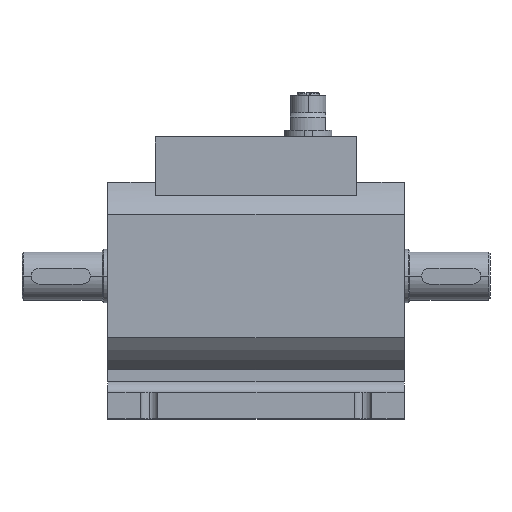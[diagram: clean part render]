
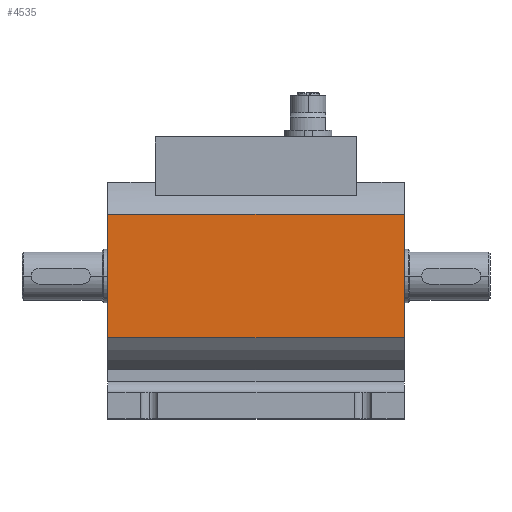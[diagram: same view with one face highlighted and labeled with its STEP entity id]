
A CAD part, top view. The second image highlights one B-rep face of the part: STEP entity #4535.
In plain terms, the highlighted planar face has unit normal (0, 0, 1).
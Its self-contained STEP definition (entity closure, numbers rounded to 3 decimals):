
#1773 = VECTOR ( 'NONE', #22611, 1000. ) ;
#2481 = DIRECTION ( 'NONE',  ( 0., -1., 0. ) ) ;
#4419 = CARTESIAN_POINT ( 'NONE',  ( 55.5, 23.126, 35. ) ) ;
#4535 = ADVANCED_FACE ( 'NONE', ( #26437 ), #11531, .F. ) ;
#5405 = VECTOR ( 'NONE', #2481, 1000. ) ;
#5726 = EDGE_LOOP ( 'NONE', ( #11437, #8131, #19983, #11266 ) ) ;
#5993 = CARTESIAN_POINT ( 'NONE',  ( -55.5, 23.126, 35. ) ) ;
#6704 = CARTESIAN_POINT ( 'NONE',  ( 55.5, 23.126, 35. ) ) ;
#7433 = LINE ( 'NONE', #11371, #1773 ) ;
#8017 = LINE ( 'NONE', #6704, #5405 ) ;
#8131 = ORIENTED_EDGE ( 'NONE', *, *, #14984, .F. ) ;
#8453 = VECTOR ( 'NONE', #16400, 1000. ) ;
#8603 = EDGE_CURVE ( 'NONE', #14668, #18036, #8017, .T. ) ;
#8997 = DIRECTION ( 'NONE',  ( 0., 0., -1. ) ) ;
#11266 = ORIENTED_EDGE ( 'NONE', *, *, #16872, .T. ) ;
#11320 = EDGE_CURVE ( 'NONE', #20758, #26353, #7433, .T. ) ;
#11341 = CARTESIAN_POINT ( 'NONE',  ( 55.5, 23.126, 35. ) ) ;
#11371 = CARTESIAN_POINT ( 'NONE',  ( -55.5, 23.126, 35. ) ) ;
#11437 = ORIENTED_EDGE ( 'NONE', *, *, #11320, .T. ) ;
#11531 = PLANE ( 'NONE',  #11892 ) ;
#11892 = AXIS2_PLACEMENT_3D ( 'NONE', #20105, #8997, #24057 ) ;
#14668 = VERTEX_POINT ( 'NONE', #11341 ) ;
#14984 = EDGE_CURVE ( 'NONE', #18036, #26353, #16810, .T. ) ;
#16400 = DIRECTION ( 'NONE',  ( -1., 0., 0. ) ) ;
#16810 = LINE ( 'NONE', #18508, #8453 ) ;
#16872 = EDGE_CURVE ( 'NONE', #14668, #20758, #22008, .T. ) ;
#17520 = DIRECTION ( 'NONE',  ( -1., 0., 0. ) ) ;
#18036 = VERTEX_POINT ( 'NONE', #26753 ) ;
#18508 = CARTESIAN_POINT ( 'NONE',  ( 55.5, -23.126, 35. ) ) ;
#18635 = CARTESIAN_POINT ( 'NONE',  ( -55.5, -23.126, 35. ) ) ;
#19983 = ORIENTED_EDGE ( 'NONE', *, *, #8603, .F. ) ;
#20105 = CARTESIAN_POINT ( 'NONE',  ( 55.5, 23.126, 35. ) ) ;
#20758 = VERTEX_POINT ( 'NONE', #5993 ) ;
#21300 = VECTOR ( 'NONE', #17520, 1000. ) ;
#22008 = LINE ( 'NONE', #4419, #21300 ) ;
#22611 = DIRECTION ( 'NONE',  ( 0., -1., 0. ) ) ;
#24057 = DIRECTION ( 'NONE',  ( 0., 1., 0. ) ) ;
#26353 = VERTEX_POINT ( 'NONE', #18635 ) ;
#26437 = FACE_OUTER_BOUND ( 'NONE', #5726, .T. ) ;
#26753 = CARTESIAN_POINT ( 'NONE',  ( 55.5, -23.126, 35. ) ) ;
